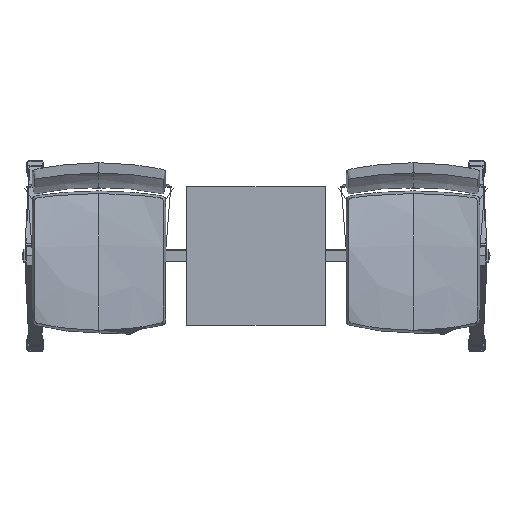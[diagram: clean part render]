
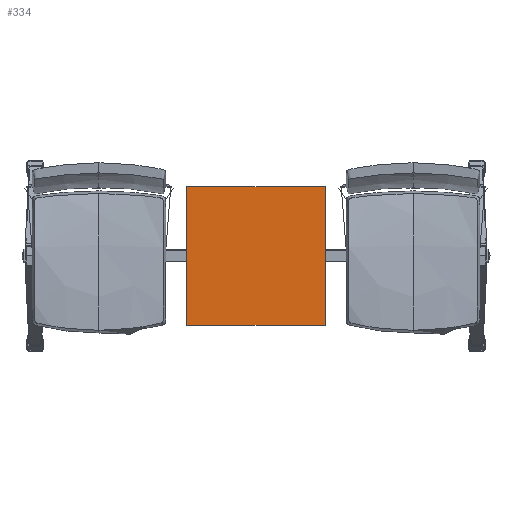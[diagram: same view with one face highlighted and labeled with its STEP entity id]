
A CAD part, top view. The second image highlights one B-rep face of the part: STEP entity #334.
In plain terms, the highlighted planar face has unit normal (0, 0, 1).
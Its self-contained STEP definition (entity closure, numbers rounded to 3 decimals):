
#334=ADVANCED_FACE('',(#740),#5212,.T.);
#740=FACE_OUTER_BOUND('',#1146,.T.);
#1146=EDGE_LOOP('',(#2229,#2230,#2231,#2232));
#2229=ORIENTED_EDGE('',*,*,#3654,.T.);
#2230=ORIENTED_EDGE('',*,*,#3656,.T.);
#2231=ORIENTED_EDGE('',*,*,#3658,.T.);
#2232=ORIENTED_EDGE('',*,*,#3660,.T.);
#3654=EDGE_CURVE('',#4599,#4600,#5852,.T.);
#3656=EDGE_CURVE('',#4600,#4601,#5854,.T.);
#3658=EDGE_CURVE('',#4601,#4602,#5856,.T.);
#3660=EDGE_CURVE('',#4602,#4599,#5858,.T.);
#4599=VERTEX_POINT('',#9347);
#4600=VERTEX_POINT('',#9348);
#4601=VERTEX_POINT('',#9349);
#4602=VERTEX_POINT('',#9350);
#5212=PLANE('',#6334);
#5852=B_SPLINE_CURVE_WITH_KNOTS('',1,(#9361,#9362),.UNSPECIFIED.,.F.,.F.,
(2,2),(0.,450.),.UNSPECIFIED.);
#5854=B_SPLINE_CURVE_WITH_KNOTS('',1,(#9365,#9366),.UNSPECIFIED.,.F.,.F.,
(2,2),(450.,900.),.UNSPECIFIED.);
#5856=B_SPLINE_CURVE_WITH_KNOTS('',1,(#9369,#9370),.UNSPECIFIED.,.F.,.F.,
(2,2),(900.,1350.),.UNSPECIFIED.);
#5858=B_SPLINE_CURVE_WITH_KNOTS('',1,(#9373,#9374),.UNSPECIFIED.,.F.,.F.,
(2,2),(1350.,1800.),.UNSPECIFIED.);
#6334=AXIS2_PLACEMENT_3D('',#9342,#6538,$);
#6538=DIRECTION('',(0.,0.,1.));
#9342=CARTESIAN_POINT('',(-225.,-225.,408.));
#9347=CARTESIAN_POINT('',(-225.,-225.,408.));
#9348=CARTESIAN_POINT('',(225.,-225.,408.));
#9349=CARTESIAN_POINT('',(225.,225.,408.));
#9350=CARTESIAN_POINT('',(-225.,225.,408.));
#9361=CARTESIAN_POINT('',(-225.,-225.,408.));
#9362=CARTESIAN_POINT('',(225.,-225.,408.));
#9365=CARTESIAN_POINT('',(225.,-225.,408.));
#9366=CARTESIAN_POINT('',(225.,225.,408.));
#9369=CARTESIAN_POINT('',(225.,225.,408.));
#9370=CARTESIAN_POINT('',(-225.,225.,408.));
#9373=CARTESIAN_POINT('',(-225.,225.,408.));
#9374=CARTESIAN_POINT('',(-225.,-225.,408.));
